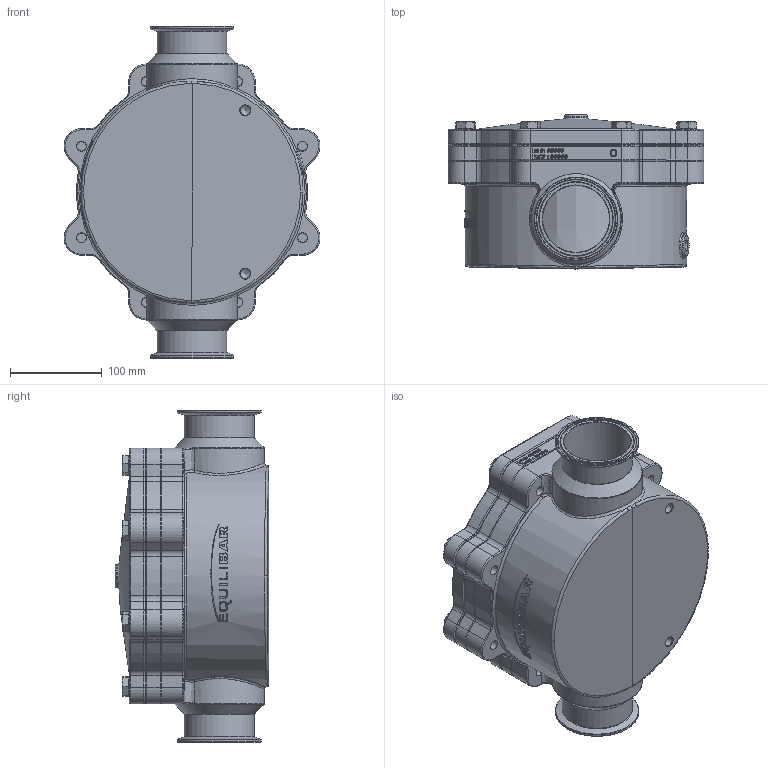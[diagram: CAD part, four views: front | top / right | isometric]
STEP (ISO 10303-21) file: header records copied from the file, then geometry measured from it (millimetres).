
FILE_DESCRIPTION(/* description */ (''),/* implementation_level */ '2;1');
FILE_NAME(/* name */ 'IC24SHH0 External Assembly.stp',/* time_stamp */ '2025-12-05T09:59:34-05:00',/* author */ ('mkowall'),/* organization */ (''),/* preprocessor_version */ 'ST-DEVELOPER v19.2',/* originating_system */ 'Autodesk Inventor 2023',/* authorisation */ '');
FILE_SCHEMA (('AUTOMOTIVE_DESIGN { 1 0 10303 214 3 1 1 }'));
Products named in the file (2): IC24SHH0 External Assembly; IC24SHH0 External Assembly_Simplify_1
Assembly tree (1 placements, depth 2):
  IC24SHH0 External Assembly
    IC24SHH0 External Assembly_Simplify_1
Bounding box: 278.64 x 167.51 x 361.44 mm (x, y, z)
Volume: 4549409.5 mm3; surface area: 717454.6 mm2
Topology: 11 solids, 11 shells, 2095 faces, 5513 edges, 3556 vertices
Faces by surface type: plane 935, bspline 589, cylinder 270, torus 206, cone 90, sphere 5
Full cylindrical faces by diameter (mm): 8.382 x4, 10.716 x10, 10.719 x1, 11.125 x1, 12.7 x8, 13.106 x16, 17.145 x8, 25.4 x2, 72.898 x2, 76.2 x2, 90.932 x2, 101.752 x1, 111.328 x1, 212.827 x1, 222.326 x1, 225.501 x2, 235.026 x2
Entity records: 95626 total; most frequent: CARTESIAN_POINT 45712, ORIENTED_EDGE 11002, DIRECTION 9500, EDGE_CURVE 5501, VERTEX_POINT 3556, AXIS2_PLACEMENT_3D 3295, LINE 2910, VECTOR 2910
